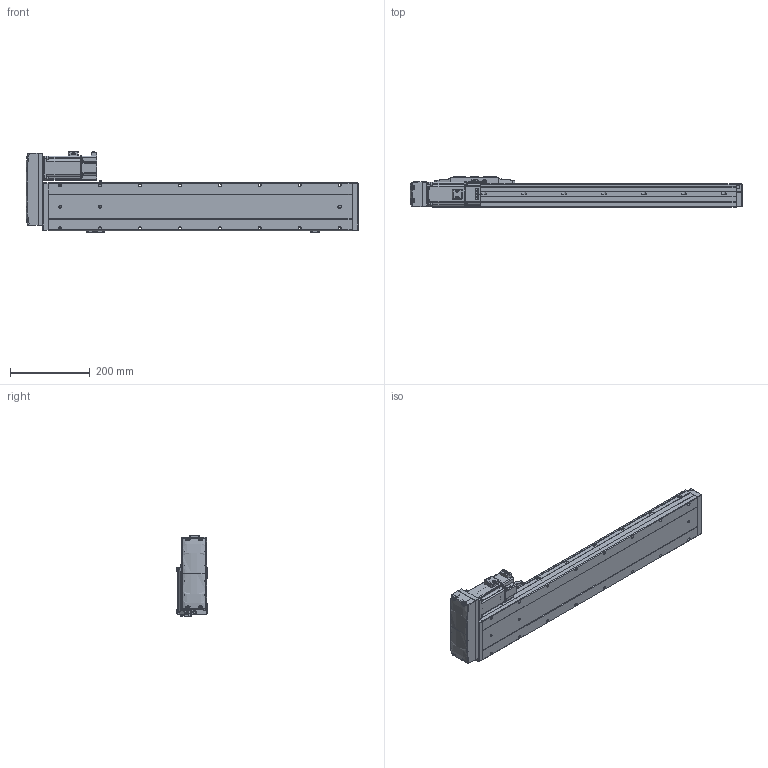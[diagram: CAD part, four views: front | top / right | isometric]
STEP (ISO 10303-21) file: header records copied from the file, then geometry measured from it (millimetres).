
FILE_DESCRIPTION (( 'STEP AP214' ), '1' );
FILE_NAME ('CTH12-L10-S550-BL-C40（简）.STEP', '2023-02-06T04:58:21', ( '' ), ( '' ), 'SwSTEP 2.0', 'SolidWorks 2018', '' );
FILE_SCHEMA (( 'AUTOMOTIVE_DESIGN' ));
Length unit declared in the file: millimetre
Products named in the file (24): CTH12; PM-Y45; 内六角圆柱头螺钉M3; 湮賑怢  裔赽-1(CTH12)賑怢; 嫖萇羲壽郪磁1; CTH嫖萇羲壽假蚾啣; 蚐郲; 400W萇儂; CTH12耜蚾裔; CTH12底座-L761简（550行程）; M5蹟隊; CTH12_body_3; CTH12侧装连接板（标准）简; CTH12-BL_body_4; CTH12-L10-S550-BL-C40（简）; hex nuts, style 1-grades ab gb_GB_FASTENER_NUT_SNAB1 M3-N; 内六角圆柱头螺钉M3-2; CTH400W假蚾啣; 内六角圆柱头螺钉M3-1; CTH12賑怢ㄗ潠ㄘ; CTH400W垫板（3个厚）; CTH12賑怢郪磁; 嫖萇羲壽郪磁2; CTH12覜茼え
Assembly tree (44 placements, depth 4):
  CTH12-L10-S550-BL-C40（简）
    CTH12底座-L761简（550行程）
    蚐郲  x2
    CTH12_body_3
    CTH12-BL_body_4
    CTH12侧装连接板（标准）简
    CTH12耜蚾裔
    CTH12賑怢郪磁
      CTH12
        湮賑怢  裔赽-1(CTH12)賑怢
        CTH12賑怢ㄗ潠ㄘ
    CTH12覜茼え
    CTH400W垫板（3个厚）
    400W萇儂
    内六角圆柱头螺钉M3  x6
    M5蹟隊  x4
    嫖萇羲壽郪磁1
      CTH嫖萇羲壽假蚾啣
      PM-Y45
      内六角圆柱头螺钉M3-2  x2
      内六角圆柱头螺钉M3-1  x2
      hex nuts, style 1-grades ab gb_GB_FASTENER_NUT_SNAB1 M3-N  x2
    嫖萇羲壽郪磁2  x2
      CTH嫖萇羲壽假蚾啣
      PM-Y45
      内六角圆柱头螺钉M3-1
      内六角圆柱头螺钉M3-2
      hex nuts, style 1-grades ab gb_GB_FASTENER_NUT_SNAB1 M3-N
    CTH400W假蚾啣
Bounding box: 831.5 x 76 x 205.26 mm (x, y, z)
Volume: 5696128.4 mm3; surface area: 634955.9 mm2
Topology: 47 solids, 48 shells, 3188 faces, 7951 edges, 4985 vertices
Faces by surface type: plane 1546, cylinder 917, cone 415, bspline 182, torus 124, sphere 4
Entity records: 104810 total; most frequent: CARTESIAN_POINT 39082, ORIENTED_EDGE 13004, DIRECTION 12284, EDGE_CURVE 6502, AXIS2_PLACEMENT_3D 4304, VERTEX_POINT 4089, VECTOR 3676, LINE 3676
